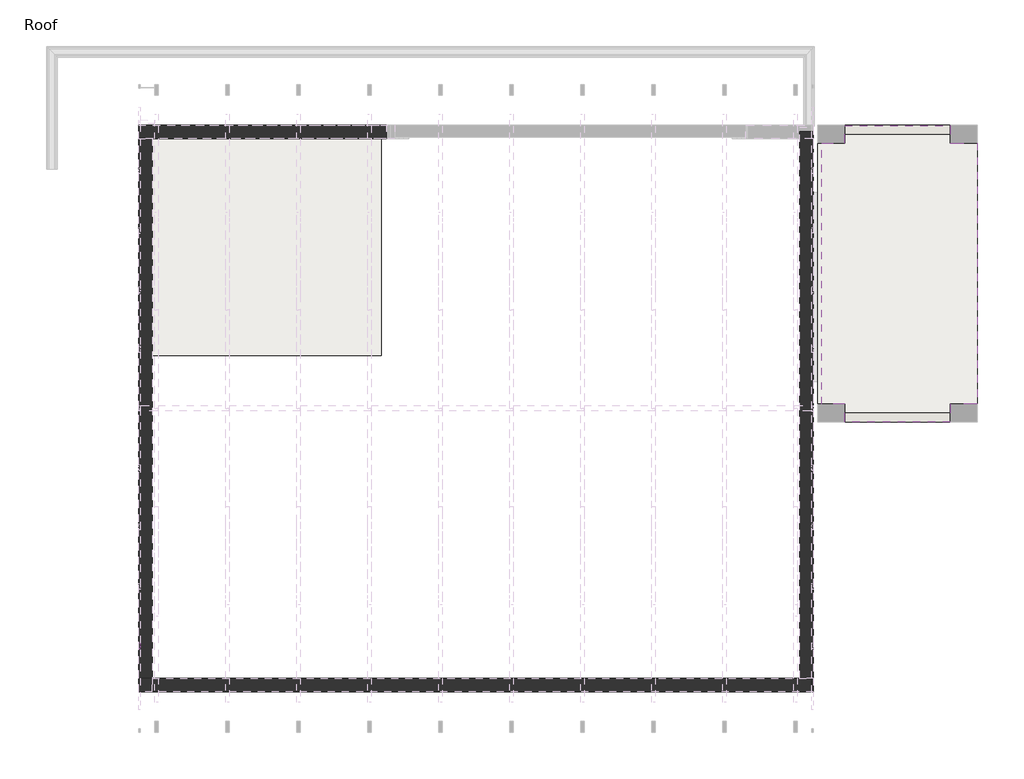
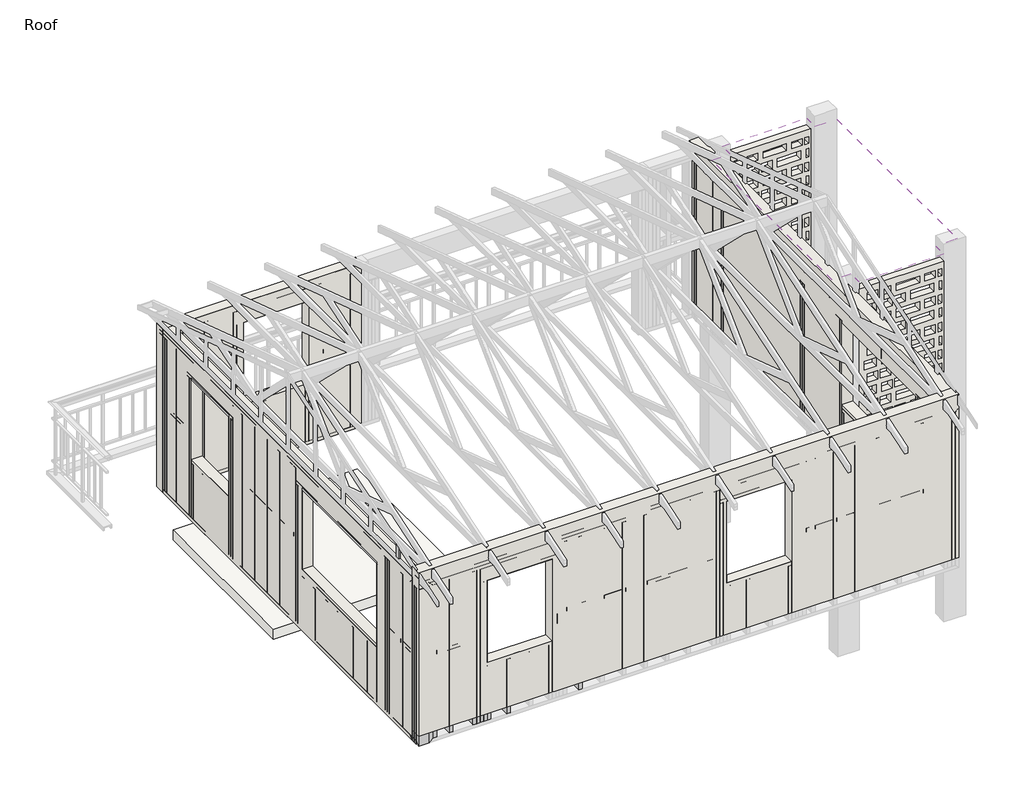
# One storey, part 1 of 6: 38 beams, 6 walls, 3 roofs.
"""IFC4 building model written with IfcOpenShell, lengths in millimetres."""

from ifc_helpers import new_model, si_unit, frame, origin, place, context, project, spatial, polyline, outline, extrude, faceted_brep, transform, mapped, element, save
from components import beam_51437148, beam_4715e774, beam_d06b0733, beam_8c0c2621, beam_8a7418d2, beam_94f9b516, beam_63ceb731, beam_45d9adf3, beam_558964e0, beam_b7962ac8, beam_e05c4371, beam_e041d9c6, beam_19b97b81, beam_0c873c21, beam_8c6c5f68, beam_1e26743b, beam_3f78b364

model = new_model("IFC4")

# Units and contexts
model_context = context("Model", 3, world=origin())
ifc_project = project(units=[si_unit("LENGTHUNIT", "METRE", prefix="MILLI")], contexts=[model_context])

# Site, building, storey
site = spatial("IfcSite", under=ifc_project)
building = spatial("IfcBuilding", under=site)
storey = spatial("IfcBuildingStorey", under=building, Name="Roof", Elevation=4267.2)

# Beams
placement = place(None, origin())
beam_shape = beam_51437148(model_context)
element("IfcBeam", 1, ObjectType="BraceBeam : 1\" x 3\"", at=placement, inside=storey, context=model_context, shape_type="MappedRepresentation", body=[
    mapped(beam_shape, transform((-11520.2112948, -24644.0985149, 5687.5908368), x_axis=(0.0, 0.011417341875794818, 0.9999348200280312), y_axis=(-1.0, 0.0, 0.0), z_axis=(0.0, -0.9999348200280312, 0.011417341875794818))),
])
element("IfcBeam", 2, ObjectType="Rectangular(Timber)-Beam : Timber_0' - 1 31/32\" x0' - 5 29/32\" _ContentGenerator", at=placement, inside=storey, context=model_context, shape_type="SweptSolid", body=[
    extrude(outline(polyline([(5435.6, -11326.4690766), (5486.4, -11377.2690766), (3098.8, -11377.2690766), (3149.6, -11326.4690766), (5435.6, -11326.4690766)])), frame((0.0, -25160.7763369, 0.0), z_axis=(0.0, 1.0, 0.0), x_axis=(0.0, 0.0, 1.0)), (0.0, 0.0, 1.0), 152.4),
])
element("IfcBeam", 3, ObjectType="Rectangular(Timber)-Beam : Timber_0' - 1 31/32\" x0' - 5 29/32\" _ContentGenerator", at=placement, inside=storey, context=model_context, shape_type="SweptSolid", body=[
    extrude(outline(polyline([(-25160.7813369, 5435.6), (-25109.9813369, 5435.6), (-25109.9813369, 3149.6), (-25160.7813369, 3098.8), (-25160.7813369, 5435.6)])), frame((-11529.6790766, 0.0, 0.0), z_axis=(1.0, 0.0, 0.0), x_axis=(0.0, 1.0, 0.0)), (0.0, 0.0, 1.0), 152.4),
])
element("IfcBeam", 4, ObjectType="Rectangular(Timber)-Beam : Timber_0' - 1 31/32\" x0' - 5 29/32\" _ContentGenerator", at=placement, inside=storey, context=model_context, shape_type="SweptSolid", body=[
    extrude(outline(polyline([(-25008.3863369, 5486.4), (-24957.5863369, 5435.6), (-24957.5863369, 3149.6), (-25008.3863369, 3098.8), (-25008.3863369, 5486.4)])), frame((-11529.6790766, 0.0, 0.0), z_axis=(1.0, 0.0, 0.0), x_axis=(0.0, 1.0, 0.0)), (0.0, 0.0, 1.0), 152.4),
])
element("IfcBeam", 5, ObjectType="Rectangular(Timber)-Beam : Timber_0' - 1 31/32\" x0' - 5 29/32\" _ContentGenerator", at=placement, inside=storey, context=model_context, shape_type="SweptSolid", body=[
    extrude(outline(polyline([(-11377.2790766, -24297.1963369), (-11377.2790766, -24347.9963369), (-11529.6790766, -24347.9963369), (-11529.6790766, -24297.1963369), (-11377.2790766, -24297.1963369)])), frame((0.0, 0.0, 3149.6), z_axis=(0.0, 0.0, 1.0), x_axis=(1.0, 0.0, 0.0)), (0.0, 0.0, 1.0), 2286.0),
])
element("IfcBeam", 6, ObjectType="Rectangular(Timber)-Beam : Timber_0' - 1 31/32\" x0' - 5 29/32\" _ContentGenerator", at=placement, inside=storey, context=model_context, shape_type="SweptSolid", body=[
    extrude(outline(polyline([(-11377.2790766, -24347.9963369), (-11377.2790766, -24398.7963369), (-11529.6790766, -24398.7963369), (-11529.6790766, -24347.9963369), (-11377.2790766, -24347.9963369)])), frame((0.0, 0.0, 3149.6), z_axis=(0.0, 0.0, 1.0), x_axis=(1.0, 0.0, 0.0)), (0.0, 0.0, 1.0), 2286.0),
])
element("IfcBeam", 7, ObjectType="Rectangular(Timber)-Beam : Timber_0' - 1 31/32\" x0' - 5 29/32\" _ContentGenerator", at=placement, inside=storey, context=model_context, shape_type="SweptSolid", body=[
    extrude(outline(polyline([(-10711.799102, -25008.3763369), (-10660.999102, -25008.3763369), (-10660.999102, -25160.7763369), (-10711.799102, -25160.7763369), (-10711.799102, -25008.3763369)])), frame((0.0, 0.0, 3149.6), z_axis=(0.0, 0.0, 1.0), x_axis=(1.0, 0.0, 0.0)), (0.0, 0.0, 1.0), 2286.0),
])
element("IfcBeam", 8, ObjectType="Rectangular(Timber)-Beam : Timber_0' - 1 31/32\" x0' - 5 29/32\" _ContentGenerator", at=placement, inside=storey, context=model_context, shape_type="SweptSolid", body=[
    extrude(outline(polyline([(-10762.5991026, -25008.3763369), (-10711.7991026, -25008.3763369), (-10711.7991026, -25160.7763369), (-10762.5991026, -25160.7763369), (-10762.5991026, -25008.3763369)])), frame((0.0, 0.0, 3149.6), z_axis=(0.0, 0.0, 1.0), x_axis=(1.0, 0.0, 0.0)), (0.0, 0.0, 1.0), 2286.0),
])
beam_2_shape = beam_4715e774(model_context)
element("IfcBeam", 9, ObjectType="Rectangular(Timber)-Beam : Timber_0' - 1 31/32\" x0' - 5 29/32\" _ContentGenerator", at=placement, inside=storey, context=model_context, shape_type="MappedRepresentation", body=[
    mapped(beam_2_shape, transform((-10584.799102, -25084.5763369, 4191.0), x_axis=(0.0, 0.0, 1.0), y_axis=(1.0, 0.0, 0.0), z_axis=(0.0, 1.0, 0.0))),
])
element("IfcBeam", 10, ObjectType="Rectangular(Timber)-Beam : Timber_0' - 1 31/32\" x0' - 5 29/32\" _ContentGenerator", at=placement, inside=storey, context=model_context, shape_type="MappedRepresentation", body=[
    mapped(beam_2_shape, transform((-10635.619102, -25084.5763369, 4191.0), x_axis=(0.0, 0.0, 1.0), y_axis=(1.0, 0.0, 0.0), z_axis=(0.0, 1.0, 0.0))),
])
beam_3_shape = beam_d06b0733(model_context)
element("IfcBeam", 11, ObjectType="Rectangular(Timber)-Beam : Timber_0' - 1 31/32\" x0' - 5 29/32\" _ContentGenerator", at=placement, inside=storey, context=model_context, shape_type="MappedRepresentation", body=[
    mapped(beam_3_shape, transform((-11453.4790766, -24170.1963369, 4178.3), x_axis=(0.0, 0.0, 1.0), y_axis=(0.0, -1.0, 0.0), z_axis=(1.0, 0.0, 0.0))),
])
element("IfcBeam", 12, ObjectType="Rectangular(Timber)-Beam : Timber_0' - 1 31/32\" x0' - 5 29/32\" _ContentGenerator", at=placement, inside=storey, context=model_context, shape_type="MappedRepresentation", body=[
    mapped(beam_3_shape, transform((-11453.4790766, -24220.9963369, 4178.3), x_axis=(0.0, 0.0, 1.0), y_axis=(0.0, -1.0, 0.0), z_axis=(1.0, 0.0, 0.0))),
])
element("IfcBeam", 13, ObjectType="Rectangular(Timber)-Beam : Timber_0' - 1 31/32\" x0' - 5 29/32\" _ContentGenerator", at=placement, inside=storey, context=model_context, shape_type="MappedRepresentation", body=[
    mapped(beam_3_shape, transform((-11453.4790766, -24271.7963369, 4178.3), x_axis=(0.0, 0.0, 1.0), y_axis=(0.0, -1.0, 0.0), z_axis=(1.0, 0.0, 0.0))),
])
beam_4_shape = beam_8c0c2621(model_context)
element("IfcBeam", 14, ObjectType="Rectangular(Timber)-Beam : Timber_0' - 1 31/32\" x0' - 5 29/32\" _ContentGenerator", at=placement, inside=storey, context=model_context, shape_type="MappedRepresentation", body=[
    mapped(beam_4_shape, transform((-11453.4790766, -24601.9763369, 4413.25), x_axis=(0.0, -1.0000000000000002, 0.0), y_axis=(0.0, 0.0, -1.0000000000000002), z_axis=(1.0000000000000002, 0.0, 0.0))),
])
beam_5_shape = beam_8a7418d2(model_context)
element("IfcBeam", 15, ObjectType="Rectangular(Timber)-Beam : Timber_0' - 1 31/32\" x0' - 5 29/32\" _ContentGenerator", at=placement, inside=storey, context=model_context, shape_type="MappedRepresentation", body=[
    mapped(beam_5_shape, transform((-10102.199102, -25135.3763369, 5359.4), x_axis=(1.0, 0.0, 0.0), y_axis=(0.0, 1.0, 0.0), z_axis=(0.0, 0.0, 1.0))),
])
beam_6_shape = beam_94f9b516(model_context)
element("IfcBeam", 16, ObjectType="Rectangular(Timber)-Beam : Timber_0' - 1 31/32\" x0' - 5 29/32\" _ContentGenerator", at=placement, inside=storey, context=model_context, shape_type="MappedRepresentation", body=[
    mapped(beam_6_shape, transform((-11453.4790766, -24119.3963369, 3530.6), x_axis=(0.0, 0.0, 1.0), y_axis=(0.0, -1.0, 0.0), z_axis=(1.0, 0.0, 0.0))),
])
element("IfcBeam", 17, ObjectType="Rectangular(Timber)-Beam : Timber_0' - 1 31/32\" x0' - 5 29/32\" _ContentGenerator", at=placement, inside=storey, context=model_context, shape_type="MappedRepresentation", body=[
    mapped(beam_5_shape, transform((-10102.199102, -25084.5763369, 5257.8), x_axis=(1.0000000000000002, 0.0, 0.0), y_axis=(0.0, 0.0, -1.0000000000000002), z_axis=(0.0, 1.0000000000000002, 0.0))),
])
beam_7_shape = beam_63ceb731(model_context)
element("IfcBeam", 18, ObjectType="Rectangular(Timber)-Beam : Timber_0' - 1 31/32\" x0' - 5 29/32\" _ContentGenerator", at=placement, inside=storey, context=model_context, shape_type="MappedRepresentation", body=[
    mapped(beam_7_shape, transform((-10917.5390896, -25084.5763369, 4413.25), x_axis=(1.0000000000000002, 0.0, 0.0), y_axis=(0.0, 0.0, -1.0000000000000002), z_axis=(0.0, 1.0000000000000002, 0.0))),
])
beam_8_shape = beam_45d9adf3(model_context)
element("IfcBeam", 19, ObjectType="Rectangular(Timber)-Beam : Timber_0' - 1 31/32\" x0' - 5 29/32\" _ContentGenerator", at=placement, inside=storey, context=model_context, shape_type="MappedRepresentation", body=[
    mapped(beam_8_shape, transform((-9342.739089, -25084.5763369, 4413.25), x_axis=(1.0000000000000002, 0.0, 0.0), y_axis=(0.0, 0.0, -1.0000000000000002), z_axis=(0.0, 1.0000000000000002, 0.0))),
])
beam_9_shape = beam_558964e0(model_context)
element("IfcBeam", 20, ObjectType="Rectangular(Timber)-Beam : Timber_0' - 1 31/32\" x0' - 5 29/32\" _ContentGenerator", at=placement, inside=storey, context=model_context, shape_type="MappedRepresentation", body=[
    mapped(beam_9_shape, transform((-11301.0690766, -25084.5763369, 4292.6), x_axis=(0.0, 0.0, 1.0), y_axis=(1.0, 0.0, 0.0), z_axis=(0.0, 1.0, 0.0))),
])
element("IfcBeam", 21, ObjectType="Rectangular(Timber)-Beam : Timber_0' - 1 31/32\" x0' - 5 29/32\" _ContentGenerator", at=placement, inside=storey, context=model_context, shape_type="MappedRepresentation", body=[
    mapped(beam_9_shape, transform((-11072.4790766, -25084.5763369, 4292.6), x_axis=(0.0, 0.0, 1.0), y_axis=(1.0, 0.0, 0.0), z_axis=(0.0, 1.0, 0.0))),
])
element("IfcBeam", 22, ObjectType="Rectangular(Timber)-Beam : Timber_0' - 1 31/32\" x0' - 5 29/32\" _ContentGenerator", at=placement, inside=storey, context=model_context, shape_type="MappedRepresentation", body=[
    mapped(beam_9_shape, transform((-9243.6790766, -25084.5763369, 4292.6), x_axis=(0.0, 0.0, 1.0), y_axis=(1.0, 0.0, 0.0), z_axis=(0.0, 1.0, 0.0))),
])
element("IfcBeam", 23, ObjectType="Rectangular(Timber)-Beam : Timber_0' - 1 31/32\" x0' - 5 29/32\" _ContentGenerator", at=placement, inside=storey, context=model_context, shape_type="MappedRepresentation", body=[
    mapped(beam_9_shape, transform((-11453.4790766, -24754.3763369, 4292.6), x_axis=(0.0, 0.0, 1.0), y_axis=(0.0, -1.0, 0.0), z_axis=(1.0, 0.0, 0.0))),
])
element("IfcBeam", 24, ObjectType="Rectangular(Timber)-Beam : Timber_0' - 1 31/32\" x0' - 5 29/32\" _ContentGenerator", at=placement, inside=storey, context=model_context, shape_type="MappedRepresentation", body=[
    mapped(beam_9_shape, transform((-11453.4790766, -24424.1963369, 4292.6), x_axis=(0.0, 0.0, 1.0), y_axis=(0.0, -1.0, 0.0), z_axis=(1.0, 0.0, 0.0))),
])
beam_10_shape = beam_b7962ac8(model_context)
element("IfcBeam", 25, ObjectType="Rectangular(Timber)-Beam : Timber_0' - 1 31/32\" x0' - 5 29/32\" _ContentGenerator", at=placement, inside=storey, context=model_context, shape_type="MappedRepresentation", body=[
    mapped(beam_10_shape, transform((-10533.999102, -25084.5763369, 3556.0), x_axis=(0.0, 0.0, 1.0), y_axis=(1.0, 0.0, 0.0), z_axis=(0.0, 1.0, 0.0))),
])
element("IfcBeam", 26, ObjectType="Rectangular(Timber)-Beam : Timber_0' - 1 31/32\" x0' - 5 29/32\" _ContentGenerator", at=placement, inside=storey, context=model_context, shape_type="MappedRepresentation", body=[
    mapped(beam_10_shape, transform((-10263.0757686, -25084.5763369, 3556.0), x_axis=(0.0, 0.0, 1.0), y_axis=(1.0, 0.0, 0.0), z_axis=(0.0, 1.0, 0.0))),
])
beam_11_shape = beam_e05c4371(model_context)
element("IfcBeam", 27, ObjectType="Rectangular(Timber)-Beam : Timber_0' - 1 31/32\" x0' - 5 29/32\" _ContentGenerator", at=placement, inside=storey, context=model_context, shape_type="MappedRepresentation", body=[
    mapped(beam_11_shape, transform((-10102.199102, -25084.5763369, 3987.8), x_axis=(1.0000000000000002, 0.0, 0.0), y_axis=(0.0, 0.0, -1.0000000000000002), z_axis=(0.0, 1.0000000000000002, 0.0))),
])
beam_12_shape = beam_e041d9c6(model_context)
element("IfcBeam", 28, ObjectType="Rectangular(Timber)-Beam : Timber_0' - 1 31/32\" x0' - 5 29/32\" _ContentGenerator", at=placement, inside=storey, context=model_context, shape_type="MappedRepresentation", body=[
    mapped(beam_12_shape, transform((-11186.7740766, -25084.5763369, 4413.25), x_axis=(1.0000000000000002, 0.0, 0.0), y_axis=(0.0, 0.0, -1.0000000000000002), z_axis=(0.0, 1.0000000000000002, 0.0))),
])
beam_13_shape = beam_19b97b81(model_context)
element("IfcBeam", 29, ObjectType="Rectangular(Timber)-Beam : Timber_0' - 1 31/32\" x0' - 5 29/32\" _ContentGenerator", at=placement, inside=storey, context=model_context, shape_type="MappedRepresentation", body=[
    mapped(beam_13_shape, transform((-9091.2790766, -25084.5763369, 4413.25), x_axis=(1.0000000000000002, 0.0, 0.0), y_axis=(0.0, 0.0, -1.0000000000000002), z_axis=(0.0, 1.0000000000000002, 0.0))),
])
beam_14_shape = beam_0c873c21(model_context)
element("IfcBeam", 30, ObjectType="Rectangular(Timber)-Beam : Timber_0' - 1 31/32\" x0' - 5 29/32\" _ContentGenerator", at=placement, inside=storey, context=model_context, shape_type="MappedRepresentation", body=[
    mapped(beam_14_shape, transform((-11453.4790766, -24868.6813369, 4413.25), x_axis=(0.0, -1.0000000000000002, 0.0), y_axis=(0.0, 0.0, -1.0000000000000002), z_axis=(1.0000000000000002, 0.0, 0.0))),
])
beam_15_shape = beam_8c6c5f68(model_context)
element("IfcBeam", 31, ObjectType="Rectangular(Timber)-Beam : Timber_0' - 1 31/32\" x0' - 5 29/32\" _ContentGenerator", at=placement, inside=storey, context=model_context, shape_type="MappedRepresentation", body=[
    mapped(beam_15_shape, transform((-11453.4790766, -25084.5863369, 4267.2), x_axis=(0.0, 0.0, 1.0), y_axis=(0.0, -1.0, 0.0), z_axis=(1.0, 0.0, 0.0))),
])
element("IfcBeam", 32, ObjectType="Rectangular(Timber)-Beam : Timber_0' - 1 31/32\" x0' - 5 29/32\" _ContentGenerator", at=placement, inside=storey, context=model_context, shape_type="MappedRepresentation", body=[
    mapped(beam_15_shape, transform((-11453.4790766, -25033.7863369, 4267.2), x_axis=(0.0, 0.0, 1.0), y_axis=(0.0, -1.0, 0.0), z_axis=(1.0, 0.0, 0.0))),
])
element("IfcBeam", 33, ObjectType="WallPlates : 6\" x 3\"", at=placement, inside=storey, context=model_context, shape_type="SweptSolid", body=[
    extrude(outline(polyline([(-11275.6690766, -25157.6013369), (-11275.6690766, -25094.1013369), (-11097.8790766, -25094.1013369), (-11097.8790766, -25157.6013369), (-11275.6690766, -25157.6013369)])), frame((0.0, 0.0, 4248.15), z_axis=(0.0, 0.0, 1.0), x_axis=(1.0, 0.0, 0.0)), (0.0, 0.0, 1.0), 139.7),
])
element("IfcBeam", 34, ObjectType="WallPlates : 6\" x 3\"", at=placement, inside=storey, context=model_context, shape_type="SweptSolid", body=[
    extrude(outline(polyline([(-11097.8790766, -25157.6013369), (-11097.8790766, -25094.1013369), (-10762.5991026, -25094.1013369), (-10762.5991026, -25157.6013369), (-11097.8790766, -25157.6013369)])), frame((0.0, 0.0, 4248.15), z_axis=(0.0, 0.0, 1.0), x_axis=(1.0, 0.0, 0.0)), (0.0, 0.0, 1.0), 139.7),
])
element("IfcBeam", 35, ObjectType="WallPlates : 6\" x 3\"", at=placement, inside=storey, context=model_context, shape_type="SweptSolid", body=[
    extrude(outline(polyline([(-9573.8790766, -25157.6013369), (-9573.8790766, -25094.1013369), (-9269.0790766, -25094.1013369), (-9269.0790766, -25157.6013369), (-9573.8790766, -25157.6013369)])), frame((0.0, 0.0, 4248.15), z_axis=(0.0, 0.0, 1.0), x_axis=(1.0, 0.0, 0.0)), (0.0, 0.0, 1.0), 139.7),
])
element("IfcBeam", 36, ObjectType="WallPlates : 6\" x 3\"", at=placement, inside=storey, context=model_context, shape_type="SweptSolid", body=[
    extrude(outline(polyline([(-9269.0790766, -25157.6013369), (-9269.0790766, -25094.1013369), (-8964.2790766, -25094.1013369), (-8964.2790766, -25157.6013369), (-9269.0790766, -25157.6013369)])), frame((0.0, 0.0, 4248.15), z_axis=(0.0, 0.0, 1.0), x_axis=(1.0, 0.0, 0.0)), (0.0, 0.0, 1.0), 139.7),
])
beam_16_shape = beam_1e26743b(model_context)
element("IfcBeam", 37, ObjectType="WallPlates : 6\" x 3\"", at=placement, inside=storey, context=model_context, shape_type="MappedRepresentation", body=[
    mapped(beam_16_shape, transform((-11494.7540766, -24843.2863369, 4318.0), x_axis=(0.0, -1.0000000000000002, 0.0), y_axis=(0.0, 0.0, -1.0000000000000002), z_axis=(1.0000000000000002, 0.0, 0.0))),
])
beam_17_shape = beam_3f78b364(model_context)
element("IfcBeam", 38, ObjectType="WallPlates : 6\" x 3\"", at=placement, inside=storey, context=model_context, shape_type="MappedRepresentation", body=[
    mapped(beam_17_shape, transform((-11494.7540766, -24589.2913369, 4318.0), x_axis=(0.0, -1.0000000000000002, 0.0), y_axis=(0.0, 0.0, -1.0000000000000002), z_axis=(1.0000000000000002, 0.0, 0.0))),
])

# Roofs
element("IfcRoof", 39, ObjectType="zGeneric - 16", at=placement, inside=storey, context=model_context, shape_type="SweptSolid", body=[
    extrude(outline(polyline([(-11384.8990766, -18912.3763369), (-8786.4790766, -18912.3763369), (-8786.4790766, -21360.3013369), (-11384.8990766, -21360.3013369), (-11384.8990766, -18912.3763369)])), frame((0.0, 0.0, 2336.8), z_axis=(0.0, 0.0, 1.0), x_axis=(1.0, 0.0, 0.0)), (0.0, 0.0, 1.0), 152.4),
])
element("IfcRoof", 40, ObjectType="zGeneric - 16", at=placement, inside=storey, context=model_context, shape_type="SweptSolid", body=[
    extrude(outline(polyline([(-3554.0790766, -18764.7388369), (-2360.2592328, -18764.7388369), (-2360.2592328, -18963.1763369), (-2055.4592328, -18963.1763369), (-2055.4592328, -21911.1634775), (-2360.2592328, -21911.1634775), (-2360.2592328, -22114.3634775), (-3554.0790766, -22114.3634775), (-3554.0790766, -21911.1634775), (-3816.2877959, -21911.1634775), (-3816.2877959, -18963.1763369), (-3554.0790766, -18963.1763369), (-3554.0790766, -18764.7388369)])), frame((0.0, 0.0, 5384.8), z_axis=(0.0, 0.0, 1.0), x_axis=(1.0, 0.0, 0.0)), (0.0, 0.0, 1.0), 152.4),
])
element("IfcRoof", 41, ObjectType="zGeneric - 16", at=placement, inside=storey, context=model_context, shape_type="SweptSolid", body=[
    extrude(outline(polyline([(-3858.8740766, -21911.1634775), (-3858.8740766, -18963.1763369), (-3554.0790766, -18963.1763369), (-3554.0790766, -18759.9763369), (-2360.2592328, -18759.9763369), (-2360.2592328, -18963.1763369), (-2055.4592328, -18963.1763369), (-2055.4592328, -21911.1634775), (-2360.2592328, -21911.1634775), (-2360.2592328, -22114.3634775), (-3554.0790766, -22114.3634775), (-3554.0790766, -21911.1634775), (-3858.8740766, -21911.1634775)])), frame((0.0, 0.0, 2946.4), z_axis=(0.0, 0.0, 1.0), x_axis=(1.0, 0.0, 0.0)), (0.0, 0.0, 1.0), 152.4),
])

# Walls
element("IfcWall", 42, ObjectType="CWXX - 6in CIP Conc", at=placement, inside=storey, context=model_context, shape_type="Brep", body=[
    faceted_brep([(-11529.6790766, -25160.7763369, 3251.2), (-3909.6790766, -25160.7763369, 3251.2), (-3909.6790766, -25160.7763369, 5689.6), (-11529.6790766, -25160.7763369, 5689.6), (-7181.199102, -25160.7763369, 5232.4), (-6266.799102, -25160.7763369, 5232.4), (-6266.799102, -25160.7763369, 4013.2), (-7181.199102, -25160.7763369, 4013.2), (-10559.399102, -25160.7763369, 5232.4), (-9644.999102, -25160.7763369, 5232.4), (-9644.999102, -25160.7763369, 4013.2), (-10559.399102, -25160.7763369, 4013.2), (-11529.6790766, -25008.3763369, 3251.2), (-11529.6790766, -25008.3763369, 5537.2), (-11529.6790766, -25008.3763369, 5689.6), (-4062.0790766, -25008.3763369, 5689.6), (-3909.6790766, -25008.3763369, 5689.6), (-3909.6790766, -25008.3763369, 3251.2), (-4062.0790766, -25008.3763369, 3251.2), (-7181.199102, -25008.3763369, 5232.4), (-7181.199102, -25008.3763369, 4013.2), (-6266.799102, -25008.3763369, 4013.2), (-6266.799102, -25008.3763369, 5232.4), (-10559.399102, -25008.3763369, 5232.4), (-10559.399102, -25008.3763369, 4013.2), (-9644.999102, -25008.3763369, 4013.2), (-9644.999102, -25008.3763369, 5232.4)], [[[0, 1, 2, 3], [4, 5, 6, 7], [8, 9, 10, 11]], [[12, 13, 14, 15, 16, 17, 18], [19, 20, 21, 22], [23, 24, 25, 26]], [[1, 0, 12, 18, 17]], [[3, 2, 16, 15, 14]], [[2, 1, 17, 16]], [[0, 3, 14, 13, 12]], [[20, 19, 4, 7]], [[21, 20, 7, 6]], [[22, 21, 6, 5]], [[19, 22, 5, 4]], [[24, 23, 8, 11]], [[25, 24, 11, 10]], [[26, 25, 10, 9]], [[23, 26, 9, 8]]]),
])
element("IfcWall", 43, ObjectType="CWXX - 6in CIP Conc", at=placement, inside=storey, context=model_context, shape_type="SweptSolid", body=[
    extrude(outline(polyline([(-18836.1763369, 3251.2), (-25008.3763369, 3251.2), (-25008.3763369, 5689.6), (-18836.1763369, 5689.6), (-18836.1763369, 3251.2)]), holes=[polyline([(-24379.7263369, 4013.2), (-22569.9763369, 4013.2), (-22569.9763369, 5232.4), (-24379.7263369, 5232.4), (-24379.7263369, 4013.2)])]), frame((-4062.0790766, 0.0, 0.0), z_axis=(1.0, 0.0, 0.0), x_axis=(0.0, 1.0, 0.0)), (0.0, 0.0, 1.0), 152.4),
])
element("IfcWall", 44, ObjectType="CWXX - 6in CIP Conc", at=placement, inside=storey, context=model_context, shape_type="Brep", body=[
    faceted_brep([(-11529.6790766, -18912.3763369, 3098.8), (-11377.2790766, -18912.3763369, 3098.8), (-8729.3290766, -18912.3763369, 3098.8), (-8729.3290766, -18912.3763369, 5537.2), (-11377.2790766, -18912.3763369, 5537.2), (-11529.6790766, -18912.3763369, 5537.2), (-9472.2790766, -18912.3763369, 5232.4), (-9472.2790766, -18912.3763369, 4013.2), (-10386.6790766, -18912.3763369, 4013.2), (-10386.6790766, -18912.3763369, 5232.4), (-11529.6790766, -18759.9763369, 3098.8), (-11529.6790766, -18759.9763369, 5537.2), (-8729.3290766, -18759.9763369, 5537.2), (-8729.3290766, -18759.9763369, 3098.8), (-9472.2790766, -18759.9763369, 5232.4), (-10386.6790766, -18759.9763369, 5232.4), (-10386.6790766, -18759.9763369, 4013.2), (-9472.2790766, -18759.9763369, 4013.2)], [[[0, 1, 2, 3, 4, 5], [6, 7, 8, 9]], [[10, 11, 12, 13], [14, 15, 16, 17]], [[0, 5, 11, 10]], [[2, 1, 0, 10, 13]], [[3, 2, 13, 12]], [[5, 4, 3, 12, 11]], [[7, 6, 14, 17]], [[8, 7, 17, 16]], [[9, 8, 16, 15]], [[6, 9, 15, 14]]]),
])
element("IfcWall", 45, ObjectType="CWXX - 6in CIP Conc", at=placement, inside=storey, context=model_context, shape_type="Brep", body=[
    faceted_brep([(-11529.6790766, -18912.3763369, 3098.8), (-11529.6790766, -25008.3763369, 3098.8), (-11529.6790766, -25008.3763369, 3251.2), (-11529.6790766, -25008.3763369, 5537.2), (-11529.6790766, -18912.3763369, 5537.2), (-11529.6790766, -19610.8763369, 5232.4), (-11529.6790766, -20525.2763369, 5232.4), (-11529.6790766, -20525.2763369, 4013.2), (-11529.6790766, -19610.8763369, 4013.2), (-11529.6790766, -24144.7863369, 4013.2), (-11529.6790766, -22315.9763369, 4013.2), (-11529.6790766, -22315.9763369, 5232.4), (-11529.6790766, -24144.7863369, 5232.4), (-11377.2790766, -25008.3763369, 3098.8), (-11377.2790766, -18912.3763369, 3098.8), (-11377.2790766, -18912.3763369, 5537.2), (-11377.2790766, -25008.3763369, 5537.2), (-11377.2790766, -19610.8763369, 5232.4), (-11377.2790766, -19610.8763369, 4013.2), (-11377.2790766, -20525.2763369, 4013.2), (-11377.2790766, -20525.2763369, 5232.4), (-11377.2790766, -22315.9763369, 4013.2), (-11377.2790766, -24144.7863369, 4013.2), (-11377.2790766, -24144.7863369, 5232.4), (-11377.2790766, -22315.9763369, 5232.4)], [[[0, 1, 2, 3, 4], [5, 6, 7, 8], [9, 10, 11, 12]], [[13, 14, 15, 16], [17, 18, 19, 20], [21, 22, 23, 24]], [[1, 0, 14, 13]], [[4, 3, 16, 15]], [[0, 4, 15, 14]], [[3, 2, 1, 13, 16]], [[21, 10, 9, 22]], [[23, 22, 9, 12]], [[23, 12, 11, 24]], [[18, 17, 5, 8]], [[19, 18, 8, 7]], [[20, 19, 7, 6]], [[17, 20, 6, 5]], [[24, 11, 10, 21]]]),
])
element("IfcWall", 46, ObjectType="4\" CMU", at=placement, inside=storey, context=model_context, shape_type="SweptSolid", body=[
    extrude(outline(polyline([(3098.8, -3554.0790766), (3098.8, -2360.2592328), (5283.2, -2360.2592328), (5283.2, -3554.0790766), (3098.8, -3554.0790766)]), holes=[polyline([(4876.2661623, -2423.7592328), (5003.2661623, -2423.7592328), (5003.2661623, -2392.0092328), (4876.2661623, -2392.0092328), (4876.2661623, -2423.7592328)]), polyline([(4876.2661623, -2499.9592328), (4876.2661623, -2830.1592328), (5003.2661623, -2830.1592328), (5003.2661623, -2499.9592328), (4876.2661623, -2499.9592328)]), polyline([(4876.2661623, -2906.3592328), (4876.2661623, -3052.4092328), (5003.2661623, -3052.4092328), (5003.2661623, -2906.3592328), (4876.2661623, -2906.3592328)]), polyline([(5003.2661623, -3236.5592328), (5003.2661623, -3090.5092328), (4876.2661623, -3090.5092328), (4876.2661623, -3236.5592328), (5003.2661623, -3236.5592328)]), polyline([(4876.2661623, -3312.7592328), (4876.2661623, -3481.2748419), (5003.2661623, -3481.2748419), (5003.2661623, -3312.7592328), (4876.2661623, -3312.7592328)]), polyline([(4673.0661623, -2442.8092328), (4800.0661623, -2442.8092328), (4800.0661623, -2392.0092328), (4673.0661623, -2392.0092328), (4673.0661623, -2442.8092328)]), polyline([(4673.0661623, -2480.9092328), (4673.0661623, -2626.9592328), (4800.0661623, -2626.9592328), (4800.0661623, -2480.9092328), (4673.0661623, -2480.9092328)]), polyline([(4800.0661623, -2703.1592328), (4673.0661623, -2703.1592328), (4673.0661623, -3033.3592328), (4800.0661623, -3033.3592328), (4800.0661623, -2703.1592328)]), polyline([(4673.0661623, -3109.5592328), (4673.0661623, -3255.6092328), (4800.0661623, -3255.6092328), (4800.0661623, -3109.5592328), (4673.0661623, -3109.5592328)]), polyline([(4673.0661623, -3293.7092328), (4673.0661623, -3439.7592328), (4800.0661623, -3439.7592328), (4800.0661623, -3293.7092328), (4673.0661623, -3293.7092328)]), polyline([(4469.8661623, -2423.7592328), (4596.8661623, -2423.7592328), (4596.8661623, -2392.0092328), (4469.8661623, -2392.0092328), (4469.8661623, -2423.7592328)]), polyline([(4469.8661623, -2499.9592328), (4469.8661623, -2830.1592328), (4596.8661623, -2830.1592328), (4596.8661623, -2499.9592328), (4469.8661623, -2499.9592328)]), polyline([(4469.8661623, -2906.3592328), (4469.8661623, -3052.4092328), (4596.8661623, -3052.4092328), (4596.8661623, -2906.3592328), (4469.8661623, -2906.3592328)]), polyline([(4596.8661623, -3236.5592328), (4596.8661623, -3090.5092328), (4469.8661623, -3090.5092328), (4469.8661623, -3236.5592328), (4596.8661623, -3236.5592328)]), polyline([(4469.8661623, -3312.7592328), (4469.8661623, -3481.2748419), (4596.8661623, -3481.2748419), (4596.8661623, -3312.7592328), (4469.8661623, -3312.7592328)]), polyline([(4253.9661623, -2442.8092328), (4380.9661623, -2442.8092328), (4380.9661623, -2392.0092328), (4253.9661623, -2392.0092328), (4253.9661623, -2442.8092328)]), polyline([(4253.9661623, -2480.9092328), (4253.9661623, -2626.9592328), (4380.9661623, -2626.9592328), (4380.9661623, -2480.9092328), (4253.9661623, -2480.9092328)]), polyline([(4380.9661623, -2703.1592328), (4253.9661623, -2703.1592328), (4253.9661623, -3033.3592328), (4380.9661623, -3033.3592328), (4380.9661623, -2703.1592328)]), polyline([(4253.9661623, -3109.5592328), (4253.9661623, -3255.6092328), (4380.9661623, -3255.6092328), (4380.9661623, -3109.5592328), (4253.9661623, -3109.5592328)]), polyline([(4253.9661623, -3293.7092328), (4253.9661623, -3439.7592328), (4380.9661623, -3439.7592328), (4380.9661623, -3293.7092328), (4253.9661623, -3293.7092328)]), polyline([(4050.7661623, -2423.7592328), (4177.7661623, -2423.7592328), (4177.7661623, -2392.0092328), (4050.7661623, -2392.0092328), (4050.7661623, -2423.7592328)]), polyline([(4050.7661623, -2499.9592328), (4050.7661623, -2830.1592328), (4177.7661623, -2830.1592328), (4177.7661623, -2499.9592328), (4050.7661623, -2499.9592328)]), polyline([(4050.7661623, -2906.3592328), (4050.7661623, -3052.4092328), (4177.7661623, -3052.4092328), (4177.7661623, -2906.3592328), (4050.7661623, -2906.3592328)]), polyline([(4177.7661623, -3236.5592328), (4177.7661623, -3090.5092328), (4050.7661623, -3090.5092328), (4050.7661623, -3236.5592328), (4177.7661623, -3236.5592328)]), polyline([(4050.7661623, -3312.7592328), (4050.7661623, -3481.2748419), (4177.7661623, -3481.2748419), (4177.7661623, -3312.7592328), (4050.7661623, -3312.7592328)]), polyline([(3847.5661623, -2442.8092328), (3974.5661623, -2442.8092328), (3974.5661623, -2392.0092328), (3847.5661623, -2392.0092328), (3847.5661623, -2442.8092328)]), polyline([(3847.5661623, -2480.9092328), (3847.5661623, -2626.9592328), (3974.5661623, -2626.9592328), (3974.5661623, -2480.9092328), (3847.5661623, -2480.9092328)]), polyline([(3974.5661623, -2703.1592328), (3847.5661623, -2703.1592328), (3847.5661623, -3033.3592328), (3974.5661623, -3033.3592328), (3974.5661623, -2703.1592328)]), polyline([(3847.5661623, -3109.5592328), (3847.5661623, -3255.6092328), (3974.5661623, -3255.6092328), (3974.5661623, -3109.5592328), (3847.5661623, -3109.5592328)]), polyline([(3847.5661623, -3293.7092328), (3847.5661623, -3439.7592328), (3974.5661623, -3439.7592328), (3974.5661623, -3293.7092328), (3847.5661623, -3293.7092328)]), polyline([(3644.3661623, -2423.7592328), (3771.3661623, -2423.7592328), (3771.3661623, -2392.0092328), (3644.3661623, -2392.0092328), (3644.3661623, -2423.7592328)]), polyline([(3644.3661623, -2499.9592328), (3644.3661623, -2830.1592328), (3771.3661623, -2830.1592328), (3771.3661623, -2499.9592328), (3644.3661623, -2499.9592328)]), polyline([(3644.3661623, -2906.3592328), (3644.3661623, -3052.4092328), (3771.3661623, -3052.4092328), (3771.3661623, -2906.3592328), (3644.3661623, -2906.3592328)]), polyline([(3771.3661623, -3236.5592328), (3771.3661623, -3090.5092328), (3644.3661623, -3090.5092328), (3644.3661623, -3236.5592328), (3771.3661623, -3236.5592328)]), polyline([(3644.3661623, -3312.7592328), (3644.3661623, -3481.2748419), (3771.3661623, -3481.2748419), (3771.3661623, -3312.7592328), (3644.3661623, -3312.7592328)]), polyline([(3441.1661623, -2442.8092328), (3568.1661623, -2442.8092328), (3568.1661623, -2392.0092328), (3441.1661623, -2392.0092328), (3441.1661623, -2442.8092328)]), polyline([(3441.1661623, -2480.9092328), (3441.1661623, -2626.9592328), (3568.1661623, -2626.9592328), (3568.1661623, -2480.9092328), (3441.1661623, -2480.9092328)]), polyline([(3568.1661623, -2703.1592328), (3441.1661623, -2703.1592328), (3441.1661623, -3033.3592328), (3568.1661623, -3033.3592328), (3568.1661623, -2703.1592328)]), polyline([(3441.1661623, -3109.5592328), (3441.1661623, -3255.6092328), (3568.1661623, -3255.6092328), (3568.1661623, -3109.5592328), (3441.1661623, -3109.5592328)]), polyline([(3441.1661623, -3293.7092328), (3441.1661623, -3439.7592328), (3568.1661623, -3439.7592328), (3568.1661623, -3293.7092328), (3441.1661623, -3293.7092328)]), polyline([(3237.9661623, -2423.7592328), (3364.9661623, -2423.7592328), (3364.9661623, -2392.0092328), (3237.9661623, -2392.0092328), (3237.9661623, -2423.7592328)]), polyline([(3237.9661623, -2499.9592328), (3237.9661623, -2830.1592328), (3364.9661623, -2830.1592328), (3364.9661623, -2499.9592328), (3237.9661623, -2499.9592328)]), polyline([(3237.9661623, -2906.3592328), (3237.9661623, -3052.4092328), (3364.9661623, -3052.4092328), (3364.9661623, -2906.3592328), (3237.9661623, -2906.3592328)]), polyline([(3364.9661623, -3236.5592328), (3364.9661623, -3090.5092328), (3237.9661623, -3090.5092328), (3237.9661623, -3236.5592328), (3364.9661623, -3236.5592328)]), polyline([(3237.9661623, -3312.7592328), (3237.9661623, -3481.2748419), (3364.9661623, -3481.2748419), (3364.9661623, -3312.7592328), (3237.9661623, -3312.7592328)]), polyline([(3123.6661623, -2442.8092328), (3161.7661623, -2442.8092328), (3161.7661623, -2392.0092328), (3123.6661623, -2392.0092328), (3123.6661623, -2442.8092328)]), polyline([(3123.6661623, -2480.9092328), (3123.6661623, -2626.9592328), (3161.7661623, -2626.9592328), (3161.7661623, -2480.9092328), (3123.6661623, -2480.9092328)]), polyline([(3161.7661623, -2703.1592328), (3123.6661623, -2703.1592328), (3123.6661623, -3033.3592328), (3161.7661623, -3033.3592328), (3161.7661623, -2703.1592328)]), polyline([(3123.6661623, -3109.5592328), (3123.6661623, -3255.6092328), (3161.7661623, -3255.6092328), (3161.7661623, -3109.5592328), (3123.6661623, -3109.5592328)]), polyline([(3123.6661623, -3293.7092328), (3123.6661623, -3439.7592328), (3161.7661623, -3439.7592328), (3161.7661623, -3293.7092328), (3123.6661623, -3293.7092328)]), polyline([(5079.4661623, -2442.8092328), (5181.0661623, -2442.8092328), (5181.0661623, -2392.0092328), (5079.4661623, -2392.0092328), (5079.4661623, -2442.8092328)]), polyline([(5079.4661623, -2480.9092328), (5079.4661623, -2626.9592328), (5181.0661623, -2626.9592328), (5181.0661623, -2480.9092328), (5079.4661623, -2480.9092328)]), polyline([(5079.4661623, -2703.1592328), (5079.4661623, -3033.3592328), (5181.0661623, -3033.3592328), (5181.0661623, -2703.1592328), (5079.4661623, -2703.1592328)]), polyline([(5079.4661623, -3109.5592328), (5079.4661623, -3255.6092328), (5181.0661623, -3255.6092328), (5181.0661623, -3109.5592328), (5079.4661623, -3109.5592328)]), polyline([(5079.4661623, -3293.7092328), (5079.4661623, -3439.7592328), (5181.0661623, -3439.7592328), (5181.0661623, -3293.7092328), (5079.4661623, -3293.7092328)])]), frame((0.0, -18861.5763369, 0.0), z_axis=(0.0, 1.0, 0.0), x_axis=(0.0, 0.0, 1.0)), (0.0, 0.0, 1.0), 101.6),
])
element("IfcWall", 47, ObjectType="4\" CMU", at=placement, inside=storey, context=model_context, shape_type="SweptSolid", body=[
    extrude(outline(polyline([(3098.8, -3554.0790766), (3098.8, -2360.2592328), (5283.2, -2360.2592328), (5283.2, -3554.0790766), (3098.8, -3554.0790766)]), holes=[polyline([(4876.2661623, -2423.7592328), (5003.2661623, -2423.7592328), (5003.2661623, -2392.0092328), (4876.2661623, -2392.0092328), (4876.2661623, -2423.7592328)]), polyline([(4876.2661623, -2499.9592328), (4876.2661623, -2830.1592328), (5003.2661623, -2830.1592328), (5003.2661623, -2499.9592328), (4876.2661623, -2499.9592328)]), polyline([(4876.2661623, -2906.3592328), (4876.2661623, -3052.4092328), (5003.2661623, -3052.4092328), (5003.2661623, -2906.3592328), (4876.2661623, -2906.3592328)]), polyline([(5003.2661623, -3236.5592328), (5003.2661623, -3090.5092328), (4876.2661623, -3090.5092328), (4876.2661623, -3236.5592328), (5003.2661623, -3236.5592328)]), polyline([(4876.2661623, -3312.7592328), (4876.2661623, -3481.2748419), (5003.2661623, -3481.2748419), (5003.2661623, -3312.7592328), (4876.2661623, -3312.7592328)]), polyline([(4673.0661623, -2442.8092328), (4800.0661623, -2442.8092328), (4800.0661623, -2392.0092328), (4673.0661623, -2392.0092328), (4673.0661623, -2442.8092328)]), polyline([(4673.0661623, -2480.9092328), (4673.0661623, -2626.9592328), (4800.0661623, -2626.9592328), (4800.0661623, -2480.9092328), (4673.0661623, -2480.9092328)]), polyline([(4800.0661623, -2703.1592328), (4673.0661623, -2703.1592328), (4673.0661623, -3033.3592328), (4800.0661623, -3033.3592328), (4800.0661623, -2703.1592328)]), polyline([(4673.0661623, -3109.5592328), (4673.0661623, -3255.6092328), (4800.0661623, -3255.6092328), (4800.0661623, -3109.5592328), (4673.0661623, -3109.5592328)]), polyline([(4673.0661623, -3293.7092328), (4673.0661623, -3439.7592328), (4800.0661623, -3439.7592328), (4800.0661623, -3293.7092328), (4673.0661623, -3293.7092328)]), polyline([(4469.8661623, -2423.7592328), (4596.8661623, -2423.7592328), (4596.8661623, -2392.0092328), (4469.8661623, -2392.0092328), (4469.8661623, -2423.7592328)]), polyline([(4469.8661623, -2499.9592328), (4469.8661623, -2830.1592328), (4596.8661623, -2830.1592328), (4596.8661623, -2499.9592328), (4469.8661623, -2499.9592328)]), polyline([(4469.8661623, -2906.3592328), (4469.8661623, -3052.4092328), (4596.8661623, -3052.4092328), (4596.8661623, -2906.3592328), (4469.8661623, -2906.3592328)]), polyline([(4596.8661623, -3236.5592328), (4596.8661623, -3090.5092328), (4469.8661623, -3090.5092328), (4469.8661623, -3236.5592328), (4596.8661623, -3236.5592328)]), polyline([(4469.8661623, -3312.7592328), (4469.8661623, -3481.2748419), (4596.8661623, -3481.2748419), (4596.8661623, -3312.7592328), (4469.8661623, -3312.7592328)]), polyline([(4253.9661623, -2442.8092328), (4380.9661623, -2442.8092328), (4380.9661623, -2392.0092328), (4253.9661623, -2392.0092328), (4253.9661623, -2442.8092328)]), polyline([(4253.9661623, -2480.9092328), (4253.9661623, -2626.9592328), (4380.9661623, -2626.9592328), (4380.9661623, -2480.9092328), (4253.9661623, -2480.9092328)]), polyline([(4380.9661623, -2703.1592328), (4253.9661623, -2703.1592328), (4253.9661623, -3033.3592328), (4380.9661623, -3033.3592328), (4380.9661623, -2703.1592328)]), polyline([(4253.9661623, -3109.5592328), (4253.9661623, -3255.6092328), (4380.9661623, -3255.6092328), (4380.9661623, -3109.5592328), (4253.9661623, -3109.5592328)]), polyline([(4253.9661623, -3293.7092328), (4253.9661623, -3439.7592328), (4380.9661623, -3439.7592328), (4380.9661623, -3293.7092328), (4253.9661623, -3293.7092328)]), polyline([(4050.7661623, -2423.7592328), (4177.7661623, -2423.7592328), (4177.7661623, -2392.0092328), (4050.7661623, -2392.0092328), (4050.7661623, -2423.7592328)]), polyline([(4050.7661623, -2499.9592328), (4050.7661623, -2830.1592328), (4177.7661623, -2830.1592328), (4177.7661623, -2499.9592328), (4050.7661623, -2499.9592328)]), polyline([(4050.7661623, -2906.3592328), (4050.7661623, -3052.4092328), (4177.7661623, -3052.4092328), (4177.7661623, -2906.3592328), (4050.7661623, -2906.3592328)]), polyline([(4177.7661623, -3236.5592328), (4177.7661623, -3090.5092328), (4050.7661623, -3090.5092328), (4050.7661623, -3236.5592328), (4177.7661623, -3236.5592328)]), polyline([(4050.7661623, -3312.7592328), (4050.7661623, -3481.2748419), (4177.7661623, -3481.2748419), (4177.7661623, -3312.7592328), (4050.7661623, -3312.7592328)]), polyline([(3847.5661623, -2442.8092328), (3974.5661623, -2442.8092328), (3974.5661623, -2392.0092328), (3847.5661623, -2392.0092328), (3847.5661623, -2442.8092328)]), polyline([(3847.5661623, -2480.9092328), (3847.5661623, -2626.9592328), (3974.5661623, -2626.9592328), (3974.5661623, -2480.9092328), (3847.5661623, -2480.9092328)]), polyline([(3974.5661623, -2703.1592328), (3847.5661623, -2703.1592328), (3847.5661623, -3033.3592328), (3974.5661623, -3033.3592328), (3974.5661623, -2703.1592328)]), polyline([(3847.5661623, -3109.5592328), (3847.5661623, -3255.6092328), (3974.5661623, -3255.6092328), (3974.5661623, -3109.5592328), (3847.5661623, -3109.5592328)]), polyline([(3847.5661623, -3293.7092328), (3847.5661623, -3439.7592328), (3974.5661623, -3439.7592328), (3974.5661623, -3293.7092328), (3847.5661623, -3293.7092328)]), polyline([(3644.3661623, -2423.7592328), (3771.3661623, -2423.7592328), (3771.3661623, -2392.0092328), (3644.3661623, -2392.0092328), (3644.3661623, -2423.7592328)]), polyline([(3644.3661623, -2499.9592328), (3644.3661623, -2830.1592328), (3771.3661623, -2830.1592328), (3771.3661623, -2499.9592328), (3644.3661623, -2499.9592328)]), polyline([(3644.3661623, -2906.3592328), (3644.3661623, -3052.4092328), (3771.3661623, -3052.4092328), (3771.3661623, -2906.3592328), (3644.3661623, -2906.3592328)]), polyline([(3771.3661623, -3236.5592328), (3771.3661623, -3090.5092328), (3644.3661623, -3090.5092328), (3644.3661623, -3236.5592328), (3771.3661623, -3236.5592328)]), polyline([(3644.3661623, -3312.7592328), (3644.3661623, -3481.2748419), (3771.3661623, -3481.2748419), (3771.3661623, -3312.7592328), (3644.3661623, -3312.7592328)]), polyline([(3441.1661623, -2442.8092328), (3568.1661623, -2442.8092328), (3568.1661623, -2392.0092328), (3441.1661623, -2392.0092328), (3441.1661623, -2442.8092328)]), polyline([(3441.1661623, -2480.9092328), (3441.1661623, -2626.9592328), (3568.1661623, -2626.9592328), (3568.1661623, -2480.9092328), (3441.1661623, -2480.9092328)]), polyline([(3568.1661623, -2703.1592328), (3441.1661623, -2703.1592328), (3441.1661623, -3033.3592328), (3568.1661623, -3033.3592328), (3568.1661623, -2703.1592328)]), polyline([(3441.1661623, -3109.5592328), (3441.1661623, -3255.6092328), (3568.1661623, -3255.6092328), (3568.1661623, -3109.5592328), (3441.1661623, -3109.5592328)]), polyline([(3441.1661623, -3293.7092328), (3441.1661623, -3439.7592328), (3568.1661623, -3439.7592328), (3568.1661623, -3293.7092328), (3441.1661623, -3293.7092328)]), polyline([(3237.9661623, -2423.7592328), (3364.9661623, -2423.7592328), (3364.9661623, -2392.0092328), (3237.9661623, -2392.0092328), (3237.9661623, -2423.7592328)]), polyline([(3237.9661623, -2499.9592328), (3237.9661623, -2830.1592328), (3364.9661623, -2830.1592328), (3364.9661623, -2499.9592328), (3237.9661623, -2499.9592328)]), polyline([(3237.9661623, -2906.3592328), (3237.9661623, -3052.4092328), (3364.9661623, -3052.4092328), (3364.9661623, -2906.3592328), (3237.9661623, -2906.3592328)]), polyline([(3364.9661623, -3236.5592328), (3364.9661623, -3090.5092328), (3237.9661623, -3090.5092328), (3237.9661623, -3236.5592328), (3364.9661623, -3236.5592328)]), polyline([(3237.9661623, -3312.7592328), (3237.9661623, -3481.2748419), (3364.9661623, -3481.2748419), (3364.9661623, -3312.7592328), (3237.9661623, -3312.7592328)]), polyline([(3123.6661623, -2442.8092328), (3161.7661623, -2442.8092328), (3161.7661623, -2392.0092328), (3123.6661623, -2392.0092328), (3123.6661623, -2442.8092328)]), polyline([(3123.6661623, -2480.9092328), (3123.6661623, -2626.9592328), (3161.7661623, -2626.9592328), (3161.7661623, -2480.9092328), (3123.6661623, -2480.9092328)]), polyline([(3161.7661623, -2703.1592328), (3123.6661623, -2703.1592328), (3123.6661623, -3033.3592328), (3161.7661623, -3033.3592328), (3161.7661623, -2703.1592328)]), polyline([(3123.6661623, -3109.5592328), (3123.6661623, -3255.6092328), (3161.7661623, -3255.6092328), (3161.7661623, -3109.5592328), (3123.6661623, -3109.5592328)]), polyline([(3123.6661623, -3293.7092328), (3123.6661623, -3439.7592328), (3161.7661623, -3439.7592328), (3161.7661623, -3293.7092328), (3123.6661623, -3293.7092328)]), polyline([(5079.4661623, -2442.8092328), (5181.0661623, -2442.8092328), (5181.0661623, -2392.0092328), (5079.4661623, -2392.0092328), (5079.4661623, -2442.8092328)]), polyline([(5079.4661623, -2480.9092328), (5079.4661623, -2626.9592328), (5181.0661623, -2626.9592328), (5181.0661623, -2480.9092328), (5079.4661623, -2480.9092328)]), polyline([(5079.4661623, -2703.1592328), (5079.4661623, -3033.3592328), (5181.0661623, -3033.3592328), (5181.0661623, -2703.1592328), (5079.4661623, -2703.1592328)]), polyline([(5079.4661623, -3109.5592328), (5079.4661623, -3255.6092328), (5181.0661623, -3255.6092328), (5181.0661623, -3109.5592328), (5079.4661623, -3109.5592328)]), polyline([(5079.4661623, -3293.7092328), (5079.4661623, -3439.7592328), (5181.0661623, -3439.7592328), (5181.0661623, -3293.7092328), (5079.4661623, -3293.7092328)])]), frame((0.0, -22114.3634775, 0.0), z_axis=(0.0, 1.0, 0.0), x_axis=(0.0, 0.0, 1.0)), (0.0, 0.0, 1.0), 101.6),
])

save(model, "model.ifc")
